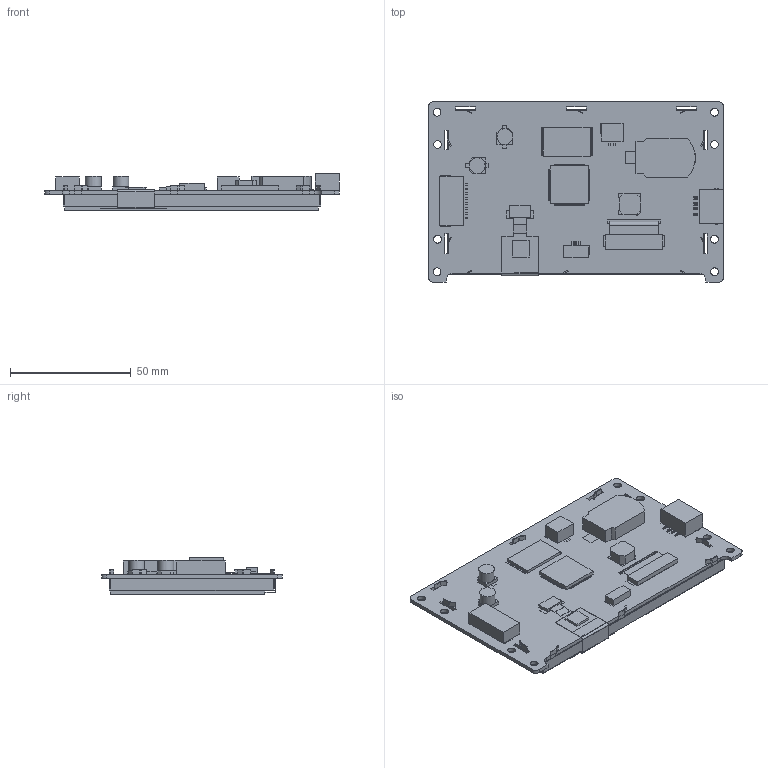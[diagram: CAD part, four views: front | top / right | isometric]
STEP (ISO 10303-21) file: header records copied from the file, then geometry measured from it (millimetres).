
FILE_DESCRIPTION(/* description */ (''),/* implementation_level */ '2;1');
FILE_NAME(/* name */ '3D_SDWe043T67C.stp',/* time_stamp */ '2020-10-09T11:12:20+08:00',/* author */ (''),/* organization */ (''),/* preprocessor_version */ 'ST-DEVELOPER v15',/* originating_system */ 'SIEMENS PLM Software NX 8.5',/* authorisation */ '');
FILE_SCHEMA (('AP203_CONFIGURATION_CONTROLLED_3D_DESIGN_OF_MECHANICAL_PARTS_AND_ASSEMBLIES_MIM_LF { 1 0 10303 403 2 1 2}'));
Length unit declared in the file: millimetre
Products named in the file (1): SDWe043T67
Bounding box: 121.9 x 74.7 x 15.23 mm (x, y, z)
Volume: 65279.2 mm3; surface area: 70758.8 mm2
Topology: 336 solids, 336 shells, 2147 faces, 4425 edges, 2950 vertices
Faces by surface type: plane 2078, cylinder 59, extrusion 10
Full cylindrical faces by diameter (mm): 3.2 x8, 6.522 x1, 6.557 x1
Entity records: 59653 total; most frequent: CARTESIAN_POINT 10026, ORIENTED_EDGE 8818, DIRECTION 8750, EDGE_CURVE 4409, VECTOR 4238, LINE 4228, VERTEX_POINT 2950, AXIS2_PLACEMENT_3D 2256
